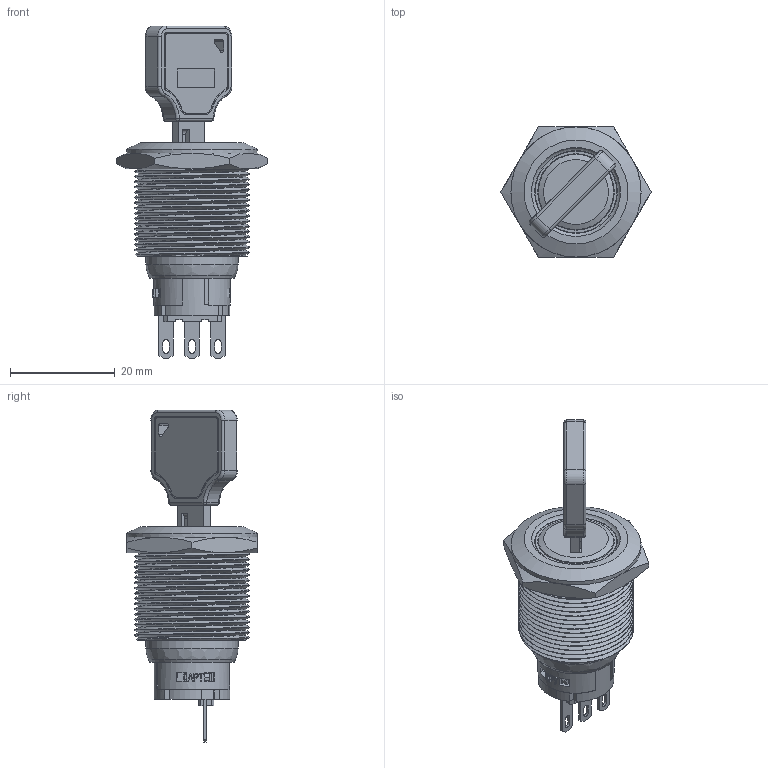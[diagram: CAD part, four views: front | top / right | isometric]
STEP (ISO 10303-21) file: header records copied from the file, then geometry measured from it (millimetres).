
FILE_DESCRIPTION(/* description */ (''),/* implementation_level */ '2;1');
FILE_NAME(/* name */ 'FM22N-SFP-11Y.stp',/* time_stamp */ '2020-08-04T16:39:11+08:00',/* author */ (''),/* organization */ (''),/* preprocessor_version */ 'ST-DEVELOPER v16.7',/* originating_system */ 'SIEMENS PLM Software NX 12.0',/* authorisation */ '');
FILE_SCHEMA (('AUTOMOTIVE_DESIGN { 1 0 10303 214 3 1 1 1 }'));
Length unit declared in the file: millimetre
Products named in the file (1): Admi4F983F75j3cv
Bounding box: 28.7 x 24.85 x 63.42 mm (x, y, z)
Volume: 9527.4 mm3; surface area: 13021 mm2
Topology: 4 solids, 6 shells, 989 faces, 2853 edges, 1856 vertices
Faces by surface type: plane 740, cylinder 170, torus 30, cone 30, bspline 10, sphere 5, extrusion 4
Full cylindrical faces by diameter (mm): 1.8 x1, 2.135 x1, 4.2 x1, 6.7 x1, 6.9 x1, 8.2 x1, 13.04 x1, 14.4 x2, 14.6 x2, 15.6 x1, 15.8 x1, 16.6 x1, 16.7 x1, 16.9 x1, 17.6 x1, 24.85 x1
Entity records: 39643 total; most frequent: CARTESIAN_POINT 8990, ORIENTED_EDGE 5598, DIRECTION 5085, EDGE_CURVE 2799, VECTOR 2179, LINE 2175, VERTEX_POINT 1840, AXIS2_PLACEMENT_3D 1453
